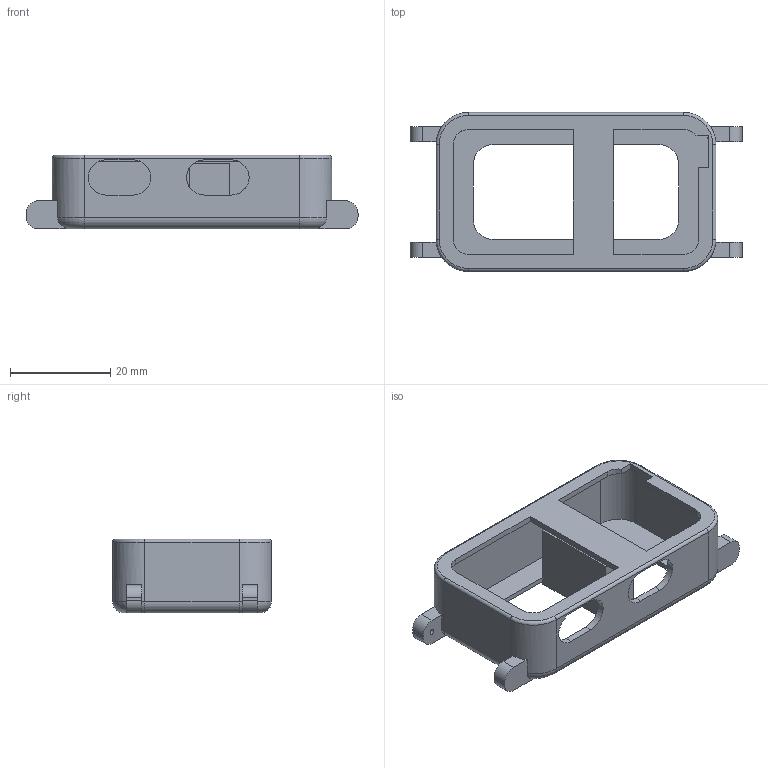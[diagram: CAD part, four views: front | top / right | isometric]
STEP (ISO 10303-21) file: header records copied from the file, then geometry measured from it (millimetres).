
FILE_DESCRIPTION(('Open CASCADE Model'),'2;1');
FILE_NAME('Open CASCADE Shape Model','2026-11-03T19:16:52',('Author'),( 'Open CASCADE'),'Open CASCADE STEP processor 7.9','Open CASCADE 7.9' ,'Unknown');
FILE_SCHEMA(('AUTOMOTIVE_DESIGN { 1 0 10303 214 1 1 1 1 }'));
Length unit declared in the file: millimetre
Products named in the file (3): Open CASCADE STEP translator 7.9 4; Open CASCADE STEP translator 7.9 4.1; Open CASCADE STEP translator 7.9 4.2
Assembly tree (2 placements, depth 2):
  Open CASCADE STEP translator 7.9 4
    Open CASCADE STEP translator 7.9 4.1
    Open CASCADE STEP translator 7.9 4.2
Bounding box: 66.2 x 31.7 x 14.7 mm (x, y, z)
Volume: 5540.7 mm3; surface area: 9309.6 mm2
Topology: 2 solids, 2 shells, 123 faces, 332 edges, 216 vertices
Faces by surface type: plane 71, cylinder 40, torus 12
Full cylindrical faces by diameter (mm): 1.1 x4
Entity records: 8676 total; most frequent: CARTESIAN_POINT 2130, DIRECTION 1178, ORIENTED_EDGE 664, PCURVE 664, DEFINITIONAL_REPRESENTATION 664, LINE 652, VECTOR 652, EDGE_CURVE 332
